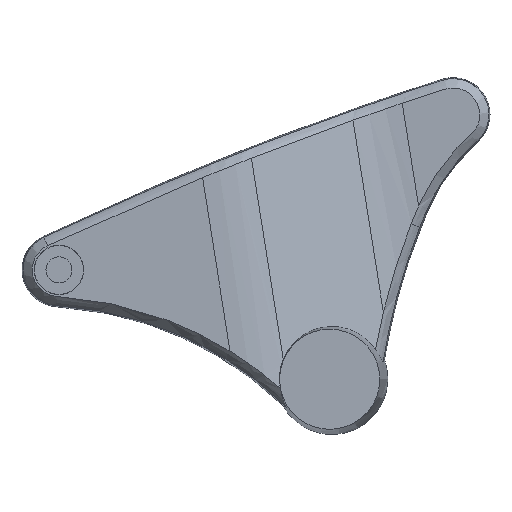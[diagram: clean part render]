
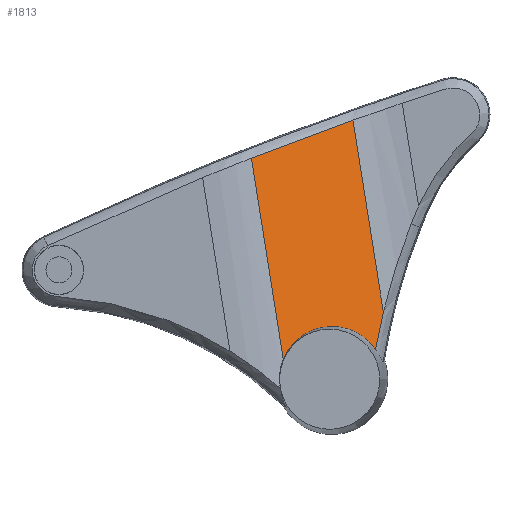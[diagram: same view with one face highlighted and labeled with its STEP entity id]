
A CAD part, front view. The second image highlights one B-rep face of the part: STEP entity #1813.
In plain terms, the highlighted planar face has unit normal (0.381, -0.922, 0.06).
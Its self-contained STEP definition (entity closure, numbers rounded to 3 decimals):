
#328 = VERTEX_POINT ( 'NONE', #1502 ) ;
#731 = CARTESIAN_POINT ( 'NONE',  ( 309.728, -284.577, 2484.323 ) ) ;
#780 = CARTESIAN_POINT ( 'NONE',  ( 250.915, -310.287, 2462.776 ) ) ;
#1319 = DIRECTION ( 'NONE',  ( 0.156, 0., -0.988 ) ) ;
#1502 = CARTESIAN_POINT ( 'NONE',  ( 179.431, -341.62, 2435.281 ) ) ;
#1782 = CARTESIAN_POINT ( 'NONE',  ( 303.185, -287.436, 2481.957 ) ) ;
#1813 = ADVANCED_FACE ( 'NONE', ( #3222 ), #2034, .F. ) ;
#1820 = VERTEX_POINT ( 'NONE', #11393 ) ;
#2034 = PLANE ( 'NONE',  #13473 ) ;
#2921 = CARTESIAN_POINT ( 'NONE',  ( 244.396, -313.14, 2460.336 ) ) ;
#3076 = DIRECTION ( 'NONE',  ( -0.924, -0.382, 0. ) ) ;
#3085 = CARTESIAN_POINT ( 'NONE',  ( 256.094, -325.759, 2193.634 ) ) ;
#3222 = FACE_OUTER_BOUND ( 'NONE', #4241, .T. ) ;
#3288 = VECTOR ( 'NONE', #4759, 1000. ) ;
#3355 = ORIENTED_EDGE ( 'NONE', *, *, #10188, .T. ) ;
#3401 = CARTESIAN_POINT ( 'NONE',  ( 375.257, -278.451, 2164.203 ) ) ;
#3805 = CARTESIAN_POINT ( 'NONE',  ( 335.96, -273.13, 2493.645 ) ) ;
#3868 = EDGE_CURVE ( 'NONE', #1820, #9771, #6441, .T. ) ;
#3901 = CARTESIAN_POINT ( 'NONE',  ( 334.323, -273.844, 2493.055 ) ) ;
#4241 = EDGE_LOOP ( 'NONE', ( #4267, #13405, #4714, #3355, #10146 ) ) ;
#4267 = ORIENTED_EDGE ( 'NONE', *, *, #7349, .T. ) ;
#4386 = CARTESIAN_POINT ( 'NONE',  ( 370.67, -281.939, 2139.872 ) ) ;
#4392 = VERTEX_POINT ( 'NONE', #9341 ) ;
#4476 = CARTESIAN_POINT ( 'NONE',  ( 371.529, -281.265, 2144.751 ) ) ;
#4575 = CARTESIAN_POINT ( 'NONE',  ( 135.171, -273.13, 3761.375 ) ) ;
#4665 = CARTESIAN_POINT ( 'NONE',  ( 377.268, -276.987, 2173.897 ) ) ;
#4714 = ORIENTED_EDGE ( 'NONE', *, *, #9352, .T. ) ;
#4759 = DIRECTION ( 'NONE',  ( 0.156, 0., -0.988 ) ) ;
#4952 = CARTESIAN_POINT ( 'NONE',  ( 195.621, -334.512, 2441.689 ) ) ;
#4992 = CARTESIAN_POINT ( 'NONE',  ( 370.67, -281.939, 2139.872 ) ) ;
#5103 =( BOUNDED_CURVE ( )  B_SPLINE_CURVE ( 3, ( #11358, #3085, #6096, #4992 ),
 .UNSPECIFIED., .F., .T. ) 
 B_SPLINE_CURVE_WITH_KNOTS ( ( 4, 4 ),
 ( 3.68, 5.851 ),
 .UNSPECIFIED. ) 
 CURVE ( )  GEOMETRIC_REPRESENTATION_ITEM ( )  RATIONAL_B_SPLINE_CURVE ( ( 1., 0.644, 0.644, 1. ) ) 
 REPRESENTATION_ITEM ( '' )  );
#5228 = LINE ( 'NONE', #10033, #3288 ) ;
#5857 = CARTESIAN_POINT ( 'NONE',  ( 332.682, -274.56, 2492.476 ) ) ;
#5906 = CARTESIAN_POINT ( 'NONE',  ( 329.399, -275.992, 2491.321 ) ) ;
#6005 = CARTESIAN_POINT ( 'NONE',  ( 185.896, -338.779, 2437.874 ) ) ;
#6096 = CARTESIAN_POINT ( 'NONE',  ( 329.624, -294.879, 2201.287 ) ) ;
#6309 = B_SPLINE_CURVE_WITH_KNOTS ( 'NONE', 3,
 ( #3805, #3901, #5857, #5906, #13140, #6956, #10083, #731, #1782, #9058, #6871, #780, #2921, #9148, #10990, #8067, #9098, #4952, #12237, #6914, #6005, #13279, #7051, #10177 ),
 .UNSPECIFIED., .F., .F.,
 ( 4, 2, 2, 2, 2, 2, 2, 2, 2, 2, 2, 4 ),
 ( 0.04, 0.046, 0.052, 0.063, 0.085, 0.13, 0.153, 0.176, 0.198, 0.209, 0.215, 0.221 ),
 .UNSPECIFIED. ) ;
#6441 = LINE ( 'NONE', #4575, #7557 ) ;
#6715 = CARTESIAN_POINT ( 'NONE',  ( 378.315, -276.237, 2178.735 ) ) ;
#6871 = CARTESIAN_POINT ( 'NONE',  ( 270.488, -301.724, 2470.052 ) ) ;
#6914 = CARTESIAN_POINT ( 'NONE',  ( 187.516, -338.068, 2438.514 ) ) ;
#6956 = CARTESIAN_POINT ( 'NONE',  ( 322.835, -278.856, 2489.007 ) ) ;
#7051 = CARTESIAN_POINT ( 'NONE',  ( 181.043, -340.911, 2435.939 ) ) ;
#7251 = CARTESIAN_POINT ( 'NONE',  ( 228.561, -341.62, 2125.081 ) ) ;
#7349 = EDGE_CURVE ( 'NONE', #4392, #9771, #8156, .T. ) ;
#7557 = VECTOR ( 'NONE', #1319, 1000. ) ;
#8067 = CARTESIAN_POINT ( 'NONE',  ( 211.848, -327.395, 2447.994 ) ) ;
#8143 = DIRECTION ( 'NONE',  ( -0.381, 0.923, -0.06 ) ) ;
#8156 = B_SPLINE_CURVE_WITH_KNOTS ( 'NONE', 3,
 ( #4386, #4476, #11677, #9614, #3401, #4665, #6715, #12888, #11941, #9796 ),
 .UNSPECIFIED., .F., .F.,
 ( 4, 2, 2, 2, 4 ),
 ( 0.276, 0.291, 0.306, 0.321, 0.336 ),
 .UNSPECIFIED. ) ;
#8689 = VERTEX_POINT ( 'NONE', #7251 ) ;
#9058 = CARTESIAN_POINT ( 'NONE',  ( 283.559, -296.01, 2474.838 ) ) ;
#9098 = CARTESIAN_POINT ( 'NONE',  ( 205.353, -330.243, 2445.485 ) ) ;
#9148 = CARTESIAN_POINT ( 'NONE',  ( 231.366, -318.844, 2455.429 ) ) ;
#9310 = CARTESIAN_POINT ( 'NONE',  ( -26.545, -341.62, 3735.762 ) ) ;
#9341 = CARTESIAN_POINT ( 'NONE',  ( 370.67, -281.939, 2139.872 ) ) ;
#9352 = EDGE_CURVE ( 'NONE', #1820, #328, #6309, .T. ) ;
#9614 = CARTESIAN_POINT ( 'NONE',  ( 374.291, -279.168, 2159.348 ) ) ;
#9771 = VERTEX_POINT ( 'NONE', #13288 ) ;
#9796 = CARTESIAN_POINT ( 'NONE',  ( 382.787, -273.13, 2197.991 ) ) ;
#10033 = CARTESIAN_POINT ( 'NONE',  ( -26.545, -341.62, 3735.762 ) ) ;
#10083 = CARTESIAN_POINT ( 'NONE',  ( 319.557, -280.286, 2487.84 ) ) ;
#10146 = ORIENTED_EDGE ( 'NONE', *, *, #10400, .T. ) ;
#10177 = CARTESIAN_POINT ( 'NONE',  ( 179.431, -341.62, 2435.281 ) ) ;
#10188 = EDGE_CURVE ( 'NONE', #328, #8689, #5228, .T. ) ;
#10400 = EDGE_CURVE ( 'NONE', #8689, #4392, #5103, .T. ) ;
#10990 = CARTESIAN_POINT ( 'NONE',  ( 224.855, -321.696, 2452.965 ) ) ;
#11358 = CARTESIAN_POINT ( 'NONE',  ( 228.561, -341.62, 2125.081 ) ) ;
#11393 = CARTESIAN_POINT ( 'NONE',  ( 335.96, -273.13, 2493.645 ) ) ;
#11677 = CARTESIAN_POINT ( 'NONE',  ( 372.426, -280.575, 2149.622 ) ) ;
#11941 = CARTESIAN_POINT ( 'NONE',  ( 381.618, -273.927, 2193.193 ) ) ;
#12237 = CARTESIAN_POINT ( 'NONE',  ( 192.377, -335.935, 2440.424 ) ) ;
#12888 = CARTESIAN_POINT ( 'NONE',  ( 380.491, -274.707, 2188.382 ) ) ;
#13140 = CARTESIAN_POINT ( 'NONE',  ( 327.757, -276.708, 2490.745 ) ) ;
#13279 = CARTESIAN_POINT ( 'NONE',  ( 182.66, -340.201, 2436.586 ) ) ;
#13288 = CARTESIAN_POINT ( 'NONE',  ( 382.787, -273.13, 2197.991 ) ) ;
#13405 = ORIENTED_EDGE ( 'NONE', *, *, #3868, .F. ) ;
#13473 = AXIS2_PLACEMENT_3D ( 'NONE', #9310, #8143, #3076 ) ;
